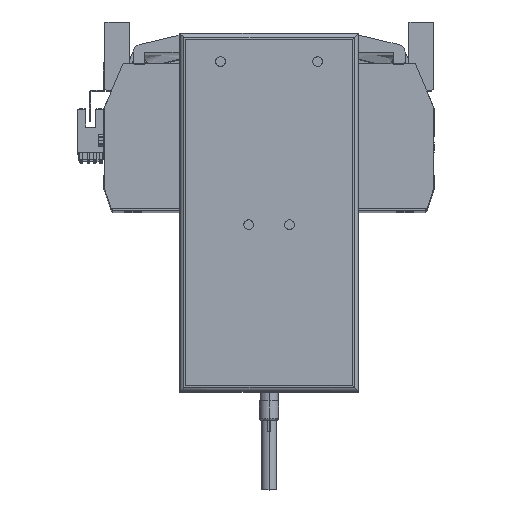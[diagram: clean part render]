
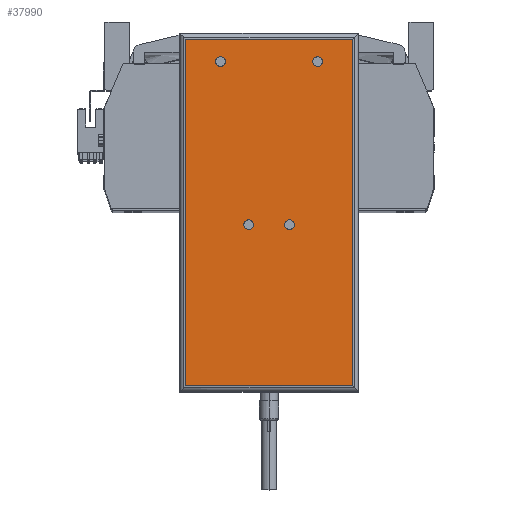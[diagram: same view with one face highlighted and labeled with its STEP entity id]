
A CAD part, top view. The second image highlights one B-rep face of the part: STEP entity #37990.
In plain terms, the highlighted planar face has unit normal (0, 0, 1) as drawn and (0, 0, -1) by its records, which use the part's own axes.
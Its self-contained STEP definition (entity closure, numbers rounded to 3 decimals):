
#41 = EDGE_CURVE ( 'NONE', #22141, #36667, #22383, .T. ) ;
#1605 = DIRECTION ( 'NONE',  ( -1., 0., 0. ) ) ;
#1780 = ORIENTED_EDGE ( 'NONE', *, *, #48666, .F. ) ;
#1890 = ORIENTED_EDGE ( 'NONE', *, *, #20373, .T. ) ;
#2067 = EDGE_CURVE ( 'NONE', #27415, #35770, #2669, .T. ) ;
#2464 = CARTESIAN_POINT ( 'NONE',  ( -10.5, -6.25, 0. ) ) ;
#2563 = CARTESIAN_POINT ( 'NONE',  ( 13., -6.25, 0. ) ) ;
#2669 = CIRCLE ( 'NONE', #11991, 2.5 ) ;
#3539 = EDGE_CURVE ( 'NONE', #50500, #46195, #36378, .T. ) ;
#4198 = CARTESIAN_POINT ( 'NONE',  ( 25., 77.75, 0. ) ) ;
#4211 = VERTEX_POINT ( 'NONE', #27379 ) ;
#4295 = CARTESIAN_POINT ( 'NONE',  ( -13., -6.25, 0. ) ) ;
#4817 = VECTOR ( 'NONE', #14819, 1000. ) ;
#5829 = VECTOR ( 'NONE', #26024, 1000. ) ;
#5997 = EDGE_CURVE ( 'NONE', #4211, #6442, #40047, .T. ) ;
#6334 = AXIS2_PLACEMENT_3D ( 'NONE', #10174, #49720, #33457 ) ;
#6442 = VERTEX_POINT ( 'NONE', #4295 ) ;
#6798 = ORIENTED_EDGE ( 'NONE', *, *, #20988, .F. ) ;
#7337 = CIRCLE ( 'NONE', #6334, 2.5 ) ;
#8805 = EDGE_LOOP ( 'NONE', ( #50033, #31200 ) ) ;
#9542 = DIRECTION ( 'NONE',  ( 0., 0., -1. ) ) ;
#9797 = CARTESIAN_POINT ( 'NONE',  ( 43., 89.25, 0. ) ) ;
#10174 = CARTESIAN_POINT ( 'NONE',  ( -25., 77.75, 0. ) ) ;
#10264 = EDGE_LOOP ( 'NONE', ( #6798, #29469 ) ) ;
#10338 = DIRECTION ( 'NONE',  ( -1., 0., 0. ) ) ;
#10666 = CARTESIAN_POINT ( 'NONE',  ( 22.5, 77.75, 0. ) ) ;
#10849 = AXIS2_PLACEMENT_3D ( 'NONE', #17812, #9542, #21419 ) ;
#11503 = VERTEX_POINT ( 'NONE', #50668 ) ;
#11991 = AXIS2_PLACEMENT_3D ( 'NONE', #20197, #47847, #40380 ) ;
#12789 = ORIENTED_EDGE ( 'NONE', *, *, #22006, .F. ) ;
#13580 = CARTESIAN_POINT ( 'NONE',  ( 43., -92.25, 0. ) ) ;
#14819 = DIRECTION ( 'NONE',  ( -1., 0., 0. ) ) ;
#16794 = CARTESIAN_POINT ( 'NONE',  ( 27.5, 77.75, 0. ) ) ;
#17812 = CARTESIAN_POINT ( 'NONE',  ( 10.5, -6.25, 0. ) ) ;
#17861 = VECTOR ( 'NONE', #49146, 1000. ) ;
#19230 = FACE_BOUND ( 'NONE', #10264, .T. ) ;
#19970 = EDGE_CURVE ( 'NONE', #33517, #50500, #36061, .T. ) ;
#20197 = CARTESIAN_POINT ( 'NONE',  ( -25., 77.75, 0. ) ) ;
#20253 = AXIS2_PLACEMENT_3D ( 'NONE', #4198, #27882, #1605 ) ;
#20373 = EDGE_CURVE ( 'NONE', #11503, #33517, #25437, .T. ) ;
#20816 = ORIENTED_EDGE ( 'NONE', *, *, #46651, .T. ) ;
#20988 = EDGE_CURVE ( 'NONE', #36667, #22141, #38462, .T. ) ;
#21089 = EDGE_LOOP ( 'NONE', ( #12789, #28469 ) ) ;
#21181 = FACE_OUTER_BOUND ( 'NONE', #28520, .T. ) ;
#21301 = CARTESIAN_POINT ( 'NONE',  ( -22.5, 77.75, 0. ) ) ;
#21419 = DIRECTION ( 'NONE',  ( -1., 0., 0. ) ) ;
#21774 = FACE_BOUND ( 'NONE', #21089, .T. ) ;
#21988 = AXIS2_PLACEMENT_3D ( 'NONE', #2464, #45550, #29939 ) ;
#22006 = EDGE_CURVE ( 'NONE', #28050, #22307, #49486, .T. ) ;
#22028 = ORIENTED_EDGE ( 'NONE', *, *, #3539, .T. ) ;
#22141 = VERTEX_POINT ( 'NONE', #16794 ) ;
#22307 = VERTEX_POINT ( 'NONE', #2563 ) ;
#22353 = CARTESIAN_POINT ( 'NONE',  ( -10.5, -6.25, 0. ) ) ;
#22383 = CIRCLE ( 'NONE', #42111, 2.5 ) ;
#23468 = CIRCLE ( 'NONE', #35714, 2.5 ) ;
#23516 = DIRECTION ( 'NONE',  ( 1., 0., 0. ) ) ;
#24336 = CARTESIAN_POINT ( 'NONE',  ( 25., 77.75, 0. ) ) ;
#24568 = EDGE_CURVE ( 'NONE', #22307, #28050, #41880, .T. ) ;
#25437 = LINE ( 'NONE', #46340, #5829 ) ;
#26024 = DIRECTION ( 'NONE',  ( 0., 1., 0. ) ) ;
#27379 = CARTESIAN_POINT ( 'NONE',  ( -8., -6.25, 0. ) ) ;
#27415 = VERTEX_POINT ( 'NONE', #50303 ) ;
#27456 = CARTESIAN_POINT ( 'NONE',  ( 10.5, -6.25, 0. ) ) ;
#27882 = DIRECTION ( 'NONE',  ( 0., 0., -1. ) ) ;
#28050 = VERTEX_POINT ( 'NONE', #35195 ) ;
#28469 = ORIENTED_EDGE ( 'NONE', *, *, #24568, .F. ) ;
#28520 = EDGE_LOOP ( 'NONE', ( #22028, #20816, #1890, #44662 ) ) ;
#29469 = ORIENTED_EDGE ( 'NONE', *, *, #41, .F. ) ;
#29939 = DIRECTION ( 'NONE',  ( -1., 0., 0. ) ) ;
#30292 = PLANE ( 'NONE',  #32130 ) ;
#30390 = FACE_BOUND ( 'NONE', #8805, .T. ) ;
#31200 = ORIENTED_EDGE ( 'NONE', *, *, #5997, .F. ) ;
#31636 = DIRECTION ( 'NONE',  ( -1., 0., 0. ) ) ;
#32130 = AXIS2_PLACEMENT_3D ( 'NONE', #45729, #38269, #41710 ) ;
#32994 = ORIENTED_EDGE ( 'NONE', *, *, #2067, .F. ) ;
#33457 = DIRECTION ( 'NONE',  ( -1., 0., 0. ) ) ;
#33517 = VERTEX_POINT ( 'NONE', #35642 ) ;
#33545 = DIRECTION ( 'NONE',  ( 0., 0., -1. ) ) ;
#35195 = CARTESIAN_POINT ( 'NONE',  ( 8., -6.25, 0. ) ) ;
#35642 = CARTESIAN_POINT ( 'NONE',  ( -43., 89.25, 0. ) ) ;
#35714 = AXIS2_PLACEMENT_3D ( 'NONE', #22353, #45724, #10338 ) ;
#35770 = VERTEX_POINT ( 'NONE', #21301 ) ;
#36061 = LINE ( 'NONE', #50546, #37316 ) ;
#36378 = LINE ( 'NONE', #13580, #17861 ) ;
#36667 = VERTEX_POINT ( 'NONE', #10666 ) ;
#37177 = DIRECTION ( 'NONE',  ( -1., 0., 0. ) ) ;
#37187 = CARTESIAN_POINT ( 'NONE',  ( 43., -89.25, 0. ) ) ;
#37316 = VECTOR ( 'NONE', #23516, 1000. ) ;
#37990 = ADVANCED_FACE ( 'NONE', ( #21181, #30390, #21774, #47108, #19230 ), #30292, .F. ) ;
#38215 = LINE ( 'NONE', #50059, #4817 ) ;
#38269 = DIRECTION ( 'NONE',  ( 0., 0., 1. ) ) ;
#38462 = CIRCLE ( 'NONE', #20253, 2.5 ) ;
#40047 = CIRCLE ( 'NONE', #21988, 2.5 ) ;
#40380 = DIRECTION ( 'NONE',  ( -1., 0., 0. ) ) ;
#41134 = AXIS2_PLACEMENT_3D ( 'NONE', #27456, #50872, #31636 ) ;
#41710 = DIRECTION ( 'NONE',  ( 1., 0., 0. ) ) ;
#41880 = CIRCLE ( 'NONE', #10849, 2.5 ) ;
#42111 = AXIS2_PLACEMENT_3D ( 'NONE', #24336, #33545, #37177 ) ;
#43825 = EDGE_LOOP ( 'NONE', ( #32994, #1780 ) ) ;
#44662 = ORIENTED_EDGE ( 'NONE', *, *, #19970, .T. ) ;
#44930 = EDGE_CURVE ( 'NONE', #6442, #4211, #23468, .T. ) ;
#45550 = DIRECTION ( 'NONE',  ( 0., 0., -1. ) ) ;
#45724 = DIRECTION ( 'NONE',  ( 0., 0., -1. ) ) ;
#45729 = CARTESIAN_POINT ( 'NONE',  ( -46., -92.25, 0. ) ) ;
#46195 = VERTEX_POINT ( 'NONE', #37187 ) ;
#46340 = CARTESIAN_POINT ( 'NONE',  ( -43., -92.25, 0. ) ) ;
#46651 = EDGE_CURVE ( 'NONE', #46195, #11503, #38215, .T. ) ;
#47108 = FACE_BOUND ( 'NONE', #43825, .T. ) ;
#47847 = DIRECTION ( 'NONE',  ( 0., 0., -1. ) ) ;
#48666 = EDGE_CURVE ( 'NONE', #35770, #27415, #7337, .T. ) ;
#49146 = DIRECTION ( 'NONE',  ( 0., -1., 0. ) ) ;
#49486 = CIRCLE ( 'NONE', #41134, 2.5 ) ;
#49720 = DIRECTION ( 'NONE',  ( 0., 0., -1. ) ) ;
#50033 = ORIENTED_EDGE ( 'NONE', *, *, #44930, .F. ) ;
#50059 = CARTESIAN_POINT ( 'NONE',  ( -46., -89.25, 0. ) ) ;
#50303 = CARTESIAN_POINT ( 'NONE',  ( -27.5, 77.75, 0. ) ) ;
#50500 = VERTEX_POINT ( 'NONE', #9797 ) ;
#50546 = CARTESIAN_POINT ( 'NONE',  ( -46., 89.25, 0. ) ) ;
#50668 = CARTESIAN_POINT ( 'NONE',  ( -43., -89.25, 0. ) ) ;
#50872 = DIRECTION ( 'NONE',  ( 0., 0., -1. ) ) ;
